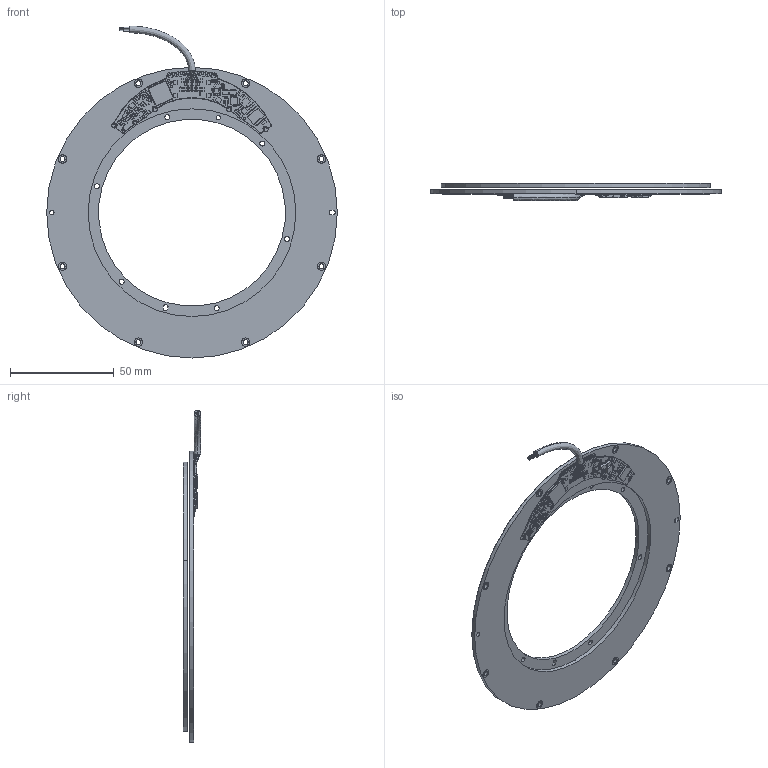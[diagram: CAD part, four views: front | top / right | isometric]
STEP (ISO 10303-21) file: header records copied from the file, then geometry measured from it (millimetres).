
FILE_DESCRIPTION (( 'STEP AP214' ), '1' );
FILE_NAME ('VLP-140.STEP', '2025-03-24T07:33:51', ( '' ), ( '' ), 'SwSTEP 2.0', 'SolidWorks 2022', '' );
FILE_SCHEMA (( 'AUTOMOTIVE_DESIGN' ));
Length unit declared in the file: millimetre
Products named in the file (5): PB-00141; PB-00456-00; PB-00140; VLP-140; VLP-QR cable
Assembly tree (4 placements, depth 2):
  VLP-140
    PB-00140
    PB-00456-00
    PB-00141
    VLP-QR cable
Bounding box: 140 x 8.35 x 159.9 mm (x, y, z)
Volume: 29408.9 mm3; surface area: 35278.3 mm2
Topology: 109 solids, 109 shells, 4654 faces, 11187 edges, 7464 vertices
Faces by surface type: plane 2896, cylinder 1737, bspline 21
Entity records: 191273 total; most frequent: CARTESIAN_POINT 28201, DIRECTION 23995, ORIENTED_EDGE 22374, EDGE_CURVE 11187, AXIS2_PLACEMENT_3D 8206, VECTOR 7583, LINE 7583, VERTEX_POINT 7464
